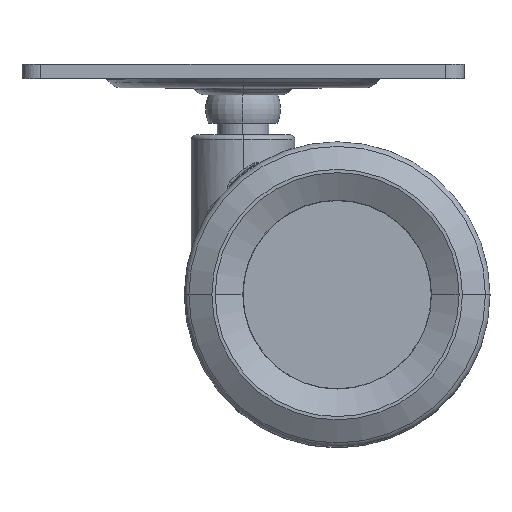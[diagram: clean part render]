
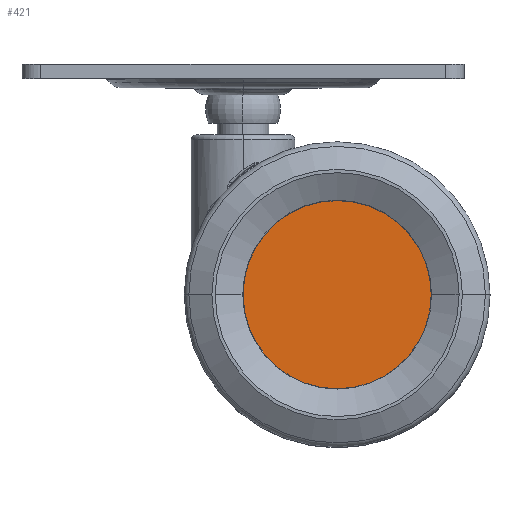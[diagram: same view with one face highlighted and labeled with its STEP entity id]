
A CAD part, top view. The second image highlights one B-rep face of the part: STEP entity #421.
In plain terms, the highlighted planar face has unit normal (0, 0, 1) as drawn and (-1, 0, 0) by its records, which use the part's own axes.
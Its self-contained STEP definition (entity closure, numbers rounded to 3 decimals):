
#380 = AXIS2_PLACEMENT_3D ( 'NONE', #24887, #7479, #15225 ) ;
#421 = ADVANCED_FACE ( 'NONE', ( #16135 ), #14348, .T. ) ;
#2768 = CARTESIAN_POINT ( 'NONE',  ( 0., 0., 0. ) ) ;
#4810 = DIRECTION ( 'NONE',  ( -1., 0., 0. ) ) ;
#5894 = EDGE_CURVE ( 'NONE', #7143, #12460, #24208, .T. ) ;
#6715 = CARTESIAN_POINT ( 'NONE',  ( 0., 20.065, 0. ) ) ;
#6815 = CARTESIAN_POINT ( 'NONE',  ( 0., 0., -20.065 ) ) ;
#7143 = VERTEX_POINT ( 'NONE', #20539 ) ;
#7479 = DIRECTION ( 'NONE',  ( 1., 0., 0. ) ) ;
#10111 = CIRCLE ( 'NONE', #380, 20.065 ) ;
#12136 = EDGE_CURVE ( 'NONE', #12460, #7143, #10111, .T. ) ;
#12451 = AXIS2_PLACEMENT_3D ( 'NONE', #6715, #4810, #12560 ) ;
#12460 = VERTEX_POINT ( 'NONE', #6815 ) ;
#12560 = DIRECTION ( 'NONE',  ( 0., 0., 1. ) ) ;
#13952 = ORIENTED_EDGE ( 'NONE', *, *, #12136, .F. ) ;
#14348 = PLANE ( 'NONE',  #12451 ) ;
#15225 = DIRECTION ( 'NONE',  ( 0., 0., -1. ) ) ;
#15781 = EDGE_LOOP ( 'NONE', ( #13952, #22441 ) ) ;
#16135 = FACE_OUTER_BOUND ( 'NONE', #15781, .T. ) ;
#20417 = DIRECTION ( 'NONE',  ( 1., 0., 0. ) ) ;
#20539 = CARTESIAN_POINT ( 'NONE',  ( 0., 0., 20.065 ) ) ;
#22172 = AXIS2_PLACEMENT_3D ( 'NONE', #2768, #20417, #23865 ) ;
#22441 = ORIENTED_EDGE ( 'NONE', *, *, #5894, .F. ) ;
#23865 = DIRECTION ( 'NONE',  ( 0., 0., -1. ) ) ;
#24208 = CIRCLE ( 'NONE', #22172, 20.065 ) ;
#24887 = CARTESIAN_POINT ( 'NONE',  ( 0., 0., 0. ) ) ;
